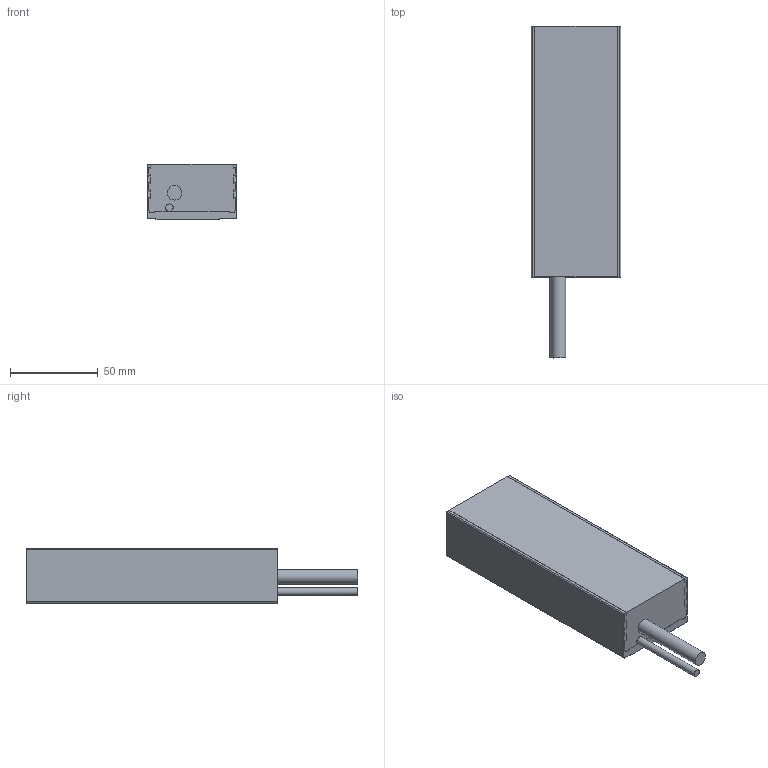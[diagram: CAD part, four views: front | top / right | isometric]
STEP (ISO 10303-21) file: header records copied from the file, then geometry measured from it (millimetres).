
FILE_DESCRIPTION(/* description */ ('Unknown'),/* implementation_level */ '2;1');
FILE_NAME(/* name */ 'Coilunit TM 6_180504',/* time_stamp */ '2018-05-17T08:40:11+02:00',/* author */ ('Tecnotion B.V.'),/* organization */ ('Tecnotion B.V.'),/* preprocessor_version */ 'ST-DEVELOPER v16.7',/* originating_system */ 'DEX',/* authorisation */ $);
FILE_SCHEMA (('CONFIG_CONTROL_DESIGN'));
Length unit declared in the file: millimetre
Products named in the file (1): Coilunit TM 6_180504
Bounding box: 51 x 189 x 31.4 mm (x, y, z)
Volume: 230462.1 mm3; surface area: 29060.9 mm2
Topology: 1 solids, 1 shells, 191 faces, 514 edges, 343 vertices
Faces by surface type: plane 151, cylinder 40
Full cylindrical faces by diameter (mm): 2.459 x3, 3.3 x4, 4.3 x1, 5 x1, 8.3 x1
Entity records: 7194 total; most frequent: CARTESIAN_POINT 1027, ORIENTED_EDGE 996, DIRECTION 963, EDGE_CURVE 498, LINE 417, VECTOR 417, VERTEX_POINT 337, AXIS2_PLACEMENT_3D 273
